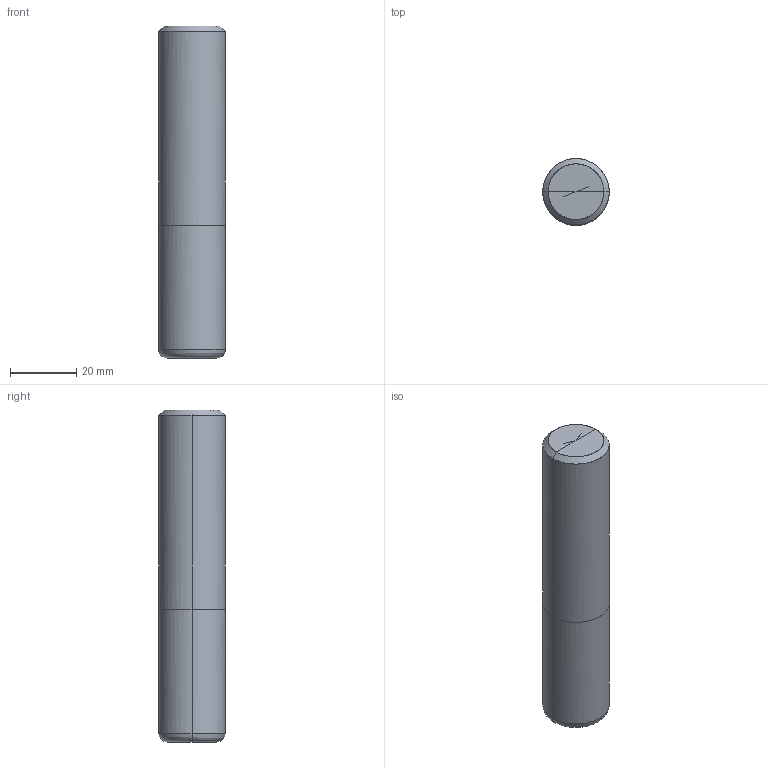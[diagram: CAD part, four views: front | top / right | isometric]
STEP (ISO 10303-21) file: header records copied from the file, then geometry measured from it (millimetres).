
FILE_DESCRIPTION(/* description */ (''),/* implementation_level */ '2;1');
FILE_NAME(/*name*/ '3081-20-2.5R',/*time_stamp*/'2021-4-15T11:40:14',/*author*/ ('ISBE GmbH'),/*organization*/ ('ISBE GmbH'),/*preprocessor_version*/ 'STEP IO v1.0',/*originating_system*/ '',/*authorisation*/ '');
FILE_SCHEMA (('AUTOMOTIVE_DESIGN'));
Length unit declared in the file: millimetre
Products named in the file (1): Document
Bounding box: 20 x 19.99 x 100 mm (x, y, z)
Surface area: 7417.9 mm2 (no closed solid volume)
Topology: 0 solids, 16 shells, 16 faces, 67 edges, 62 vertices
Faces by surface type: bspline 16
Entity records: 1645 total; most frequent: CARTESIAN_POINT 1346, VERTEX_POINT 56, EDGE_CURVE 56, ORIENTED_EDGE 56, DIRECTION 16, EDGE_LOOP 16, FACE_OUTER_BOUND 16, ADVANCED_FACE 16
